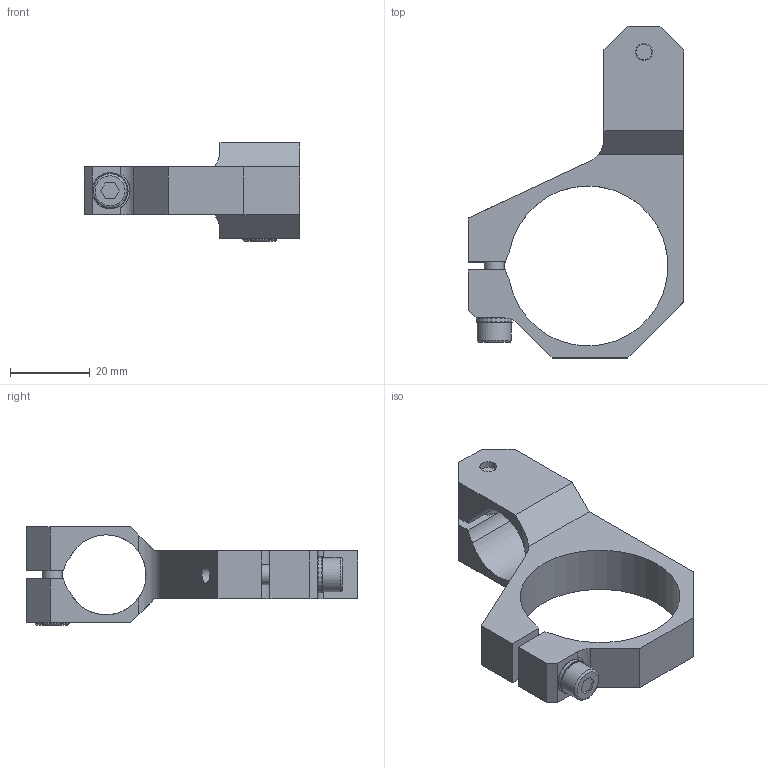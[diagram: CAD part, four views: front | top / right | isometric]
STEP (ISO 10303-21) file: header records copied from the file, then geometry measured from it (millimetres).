
FILE_DESCRIPTION(('STEP AP214'),'1');
FILE_NAME('CA.KKS.L.4020.stp','2020-04-08T09:42:54',(' '),(' '),'Spatial InterOp 3D',' ',' ');
FILE_SCHEMA(('AUTOMOTIVE_DESIGN { 1 0 10303 214 1 1 1 1 }'));
Length unit declared in the file: millimetre
Products named in the file (4): CA.KKS.L.4020; V.TCE5x18; R.5.SCH; KKS.L.4020
Assembly tree (5 placements, depth 2):
  CA.KKS.L.4020
    V.TCE5x18  x2
    R.5.SCH  x2
    KKS.L.4020
Bounding box: 54 x 83 x 24.6 mm (x, y, z)
Volume: 18578.9 mm3; surface area: 11427.8 mm2
Topology: 3 solids, 5 shells, 460 faces, 1342 edges, 891 vertices
Faces by surface type: plane 432, cylinder 22, torus 4, cone 2
Full cylindrical faces by diameter (mm): 4.2 x2, 5 x2, 5.2 x2, 5.3 x2, 8.5 x2, 9 x2, 10 x1
Entity records: 10531 total; most frequent: CARTESIAN_POINT 1493, DIRECTION 1454, ORIENTED_EDGE 1426, EDGE_CURVE 713, AXIS2_PLACEMENT_3D 486, LINE 482, VECTOR 482, VERTEX_POINT 481
